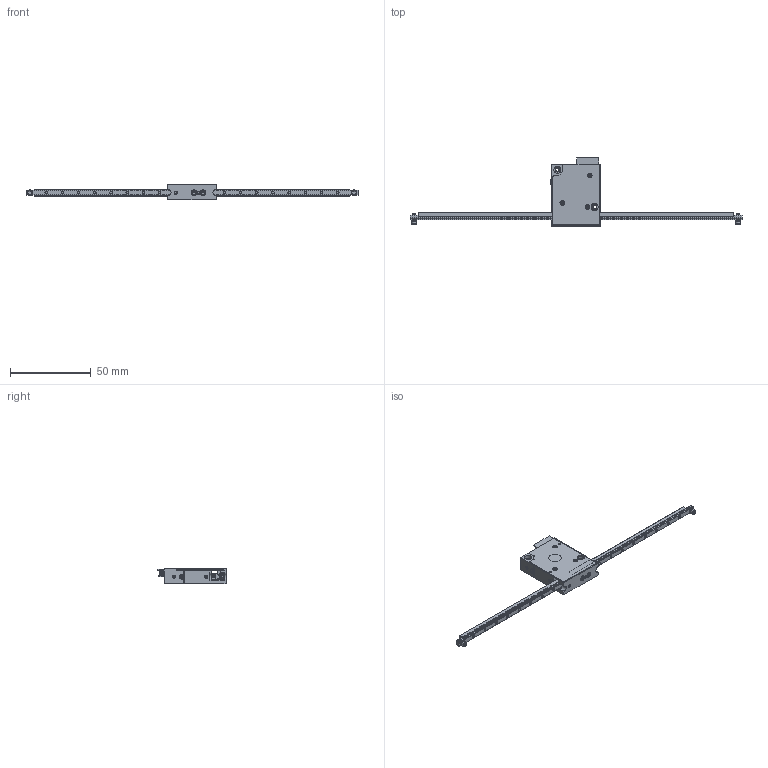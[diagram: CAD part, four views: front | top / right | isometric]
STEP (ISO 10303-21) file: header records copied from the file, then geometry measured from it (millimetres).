
FILE_DESCRIPTION(/* description */ (''),/* implementation_level */ '2;1');
FILE_NAME(/* name */ 'XLA_3_205_assy_F2.stp',/* time_stamp */ '2024-01-30T15:46:40+01:00',/* author */ (''),/* organization */ (''),/* preprocessor_version */ 'ST-DEVELOPER v16',/* originating_system */ 'SIEMENS PLM Software NX 10.0',/* authorisation */ '');
FILE_SCHEMA (('AUTOMOTIVE_DESIGN { 1 0 10303 214 3 1 1 1 }'));
Products named in the file (22): 525591452_stp; 525591252_stp; 527451497_Gold; 527451297_Gold; O-ring_Di1_Do3; rondsel_DIN433_M1_6; XLA_3_damping_foil_195_B; Bout_M1_6_L5; linear_encoder_195; ceramic_ruler_W3_T2_L195; rail-0205_step; Part1_carriage; Part2_carriage; CSPPN1P-ST3W-M2-1_5_214_step; XLA_3_cover_A; CSPPN1P-ST3W-M2-3_214_step; PACK-SMIB1.6-3_stp; XLA_3_body_E2; XLA_3_top_PCB_B; XLA_3_tractielat_205_B; carriage; XLA_3_205_assy_F2 
Assembly tree (30 placements, depth 3):
  XLA_3_205_assy_F2 
    carriage
      Part2_carriage  x2
      Part1_carriage
    XLA_3_body_E2
    XLA_3_tractielat_205_B
      rail-0205_step
      ceramic_ruler_W3_T2_L195
      linear_encoder_195
      Bout_M1_6_L5  x2
      XLA_3_damping_foil_195_B
      rondsel_DIN433_M1_6  x4
      O-ring_Di1_Do3  x2
    XLA_3_top_PCB_B
      527451297_Gold
      527451497_Gold
      525591252_stp
      525591452_stp
    PACK-SMIB1.6-3_stp  x3
    CSPPN1P-ST3W-M2-3_214_step  x2
    XLA_3_cover_A
    CSPPN1P-ST3W-M2-1_5_214_step
Bounding box: 205 x 42 x 9.45 mm (x, y, z)
Volume: 12156.9 mm3; surface area: 17604.5 mm2
Topology: 28 solids, 28 shells, 2893 faces, 8417 edges, 5506 vertices
Faces by surface type: plane 2340, cylinder 425, cone 52, sphere 36, torus 31, bspline 9
Full cylindrical faces by diameter (mm): 1 x2, 1.25 x3, 1.6 x8, 1.7 x4, 1.8 x3, 2.135 x2, 2.2 x2, 2.4 x3, 2.8 x3, 3 x2, 3.4 x2, 3.5 x4, 4.4 x4, 8 x1
Entity records: 93945 total; most frequent: CARTESIAN_POINT 19977, ORIENTED_EDGE 15802, DIRECTION 14297, EDGE_CURVE 7901, LINE 6943, VECTOR 6943, VERTEX_POINT 5218, AXIS2_PLACEMENT_3D 3677
